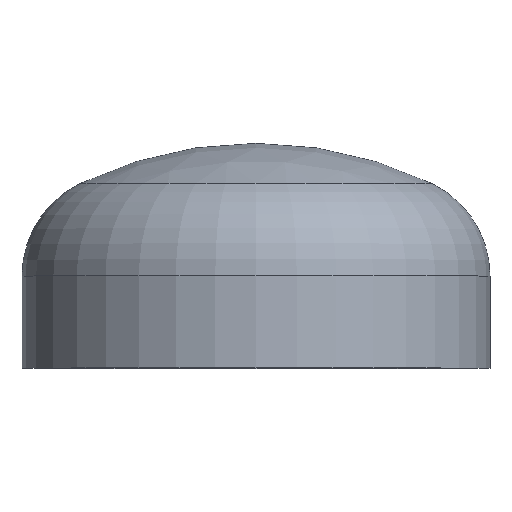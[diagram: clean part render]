
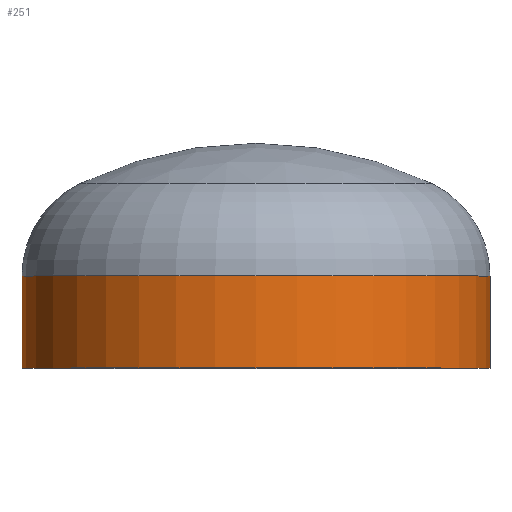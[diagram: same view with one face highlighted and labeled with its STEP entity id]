
A CAD part, top view. The second image highlights one B-rep face of the part: STEP entity #251.
In plain terms, the highlighted cylindrical face has radius 177.8 mm (diameter 355.6 mm), a partial arc.
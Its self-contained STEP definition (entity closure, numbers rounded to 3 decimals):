
#9 = VECTOR ( 'NONE', #246, 1000. ) ;
#11 = ORIENTED_EDGE ( 'NONE', *, *, #206, .T. ) ;
#28 = ORIENTED_EDGE ( 'NONE', *, *, #358, .F. ) ;
#32 = AXIS2_PLACEMENT_3D ( 'NONE', #124, #102, #179 ) ;
#34 = AXIS2_PLACEMENT_3D ( 'NONE', #258, #169, #172 ) ;
#47 = AXIS2_PLACEMENT_3D ( 'NONE', #388, #396, #393 ) ;
#76 = VECTOR ( 'NONE', #400, 1000. ) ;
#80 = CARTESIAN_POINT ( 'NONE',  ( 177.8, 0., 0. ) ) ;
#94 = VERTEX_POINT ( 'NONE', #250 ) ;
#98 = ORIENTED_EDGE ( 'NONE', *, *, #389, .F. ) ;
#100 = VERTEX_POINT ( 'NONE', #244 ) ;
#102 = DIRECTION ( 'NONE',  ( 0., -1., 0. ) ) ;
#107 = VERTEX_POINT ( 'NONE', #328 ) ;
#124 = CARTESIAN_POINT ( 'NONE',  ( 0., 0., 0. ) ) ;
#130 = VERTEX_POINT ( 'NONE', #235 ) ;
#138 = ORIENTED_EDGE ( 'NONE', *, *, #175, .T. ) ;
#141 = EDGE_LOOP ( 'NONE', ( #11, #138, #28, #98 ) ) ;
#169 = DIRECTION ( 'NONE',  ( 0., -1., 0. ) ) ;
#172 = DIRECTION ( 'NONE',  ( 1., 0., 0. ) ) ;
#175 = EDGE_CURVE ( 'NONE', #130, #100, #178, .T. ) ;
#178 = LINE ( 'NONE', #247, #9 ) ;
#179 = DIRECTION ( 'NONE',  ( 1., 0., 0. ) ) ;
#199 = LINE ( 'NONE', #80, #76 ) ;
#206 = EDGE_CURVE ( 'NONE', #107, #130, #237, .T. ) ;
#235 = CARTESIAN_POINT ( 'NONE',  ( -177.8, 70., 0. ) ) ;
#237 = CIRCLE ( 'NONE', #47, 177.8 ) ;
#244 = CARTESIAN_POINT ( 'NONE',  ( -177.8, 0., 0. ) ) ;
#246 = DIRECTION ( 'NONE',  ( 0., -1., 0. ) ) ;
#247 = CARTESIAN_POINT ( 'NONE',  ( -177.8, 0., 0. ) ) ;
#250 = CARTESIAN_POINT ( 'NONE',  ( 177.8, 0., 0. ) ) ;
#251 = ADVANCED_FACE ( 'NONE', ( #410 ), #405, .T. ) ;
#258 = CARTESIAN_POINT ( 'NONE',  ( 0., 0., 0. ) ) ;
#328 = CARTESIAN_POINT ( 'NONE',  ( 177.8, 70., 0. ) ) ;
#342 = CIRCLE ( 'NONE', #34, 177.8 ) ;
#358 = EDGE_CURVE ( 'NONE', #94, #100, #342, .T. ) ;
#388 = CARTESIAN_POINT ( 'NONE',  ( 0., 70., 0. ) ) ;
#389 = EDGE_CURVE ( 'NONE', #107, #94, #199, .T. ) ;
#393 = DIRECTION ( 'NONE',  ( 1., 0., 0. ) ) ;
#396 = DIRECTION ( 'NONE',  ( 0., -1., 0. ) ) ;
#400 = DIRECTION ( 'NONE',  ( 0., -1., 0. ) ) ;
#405 = CYLINDRICAL_SURFACE ( 'NONE', #32, 177.8 ) ;
#410 = FACE_OUTER_BOUND ( 'NONE', #141, .T. ) ;
